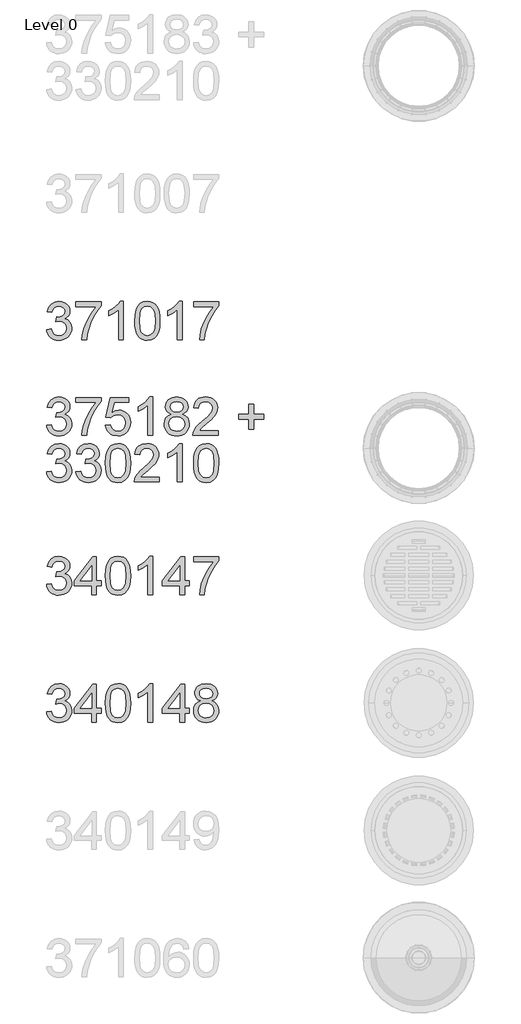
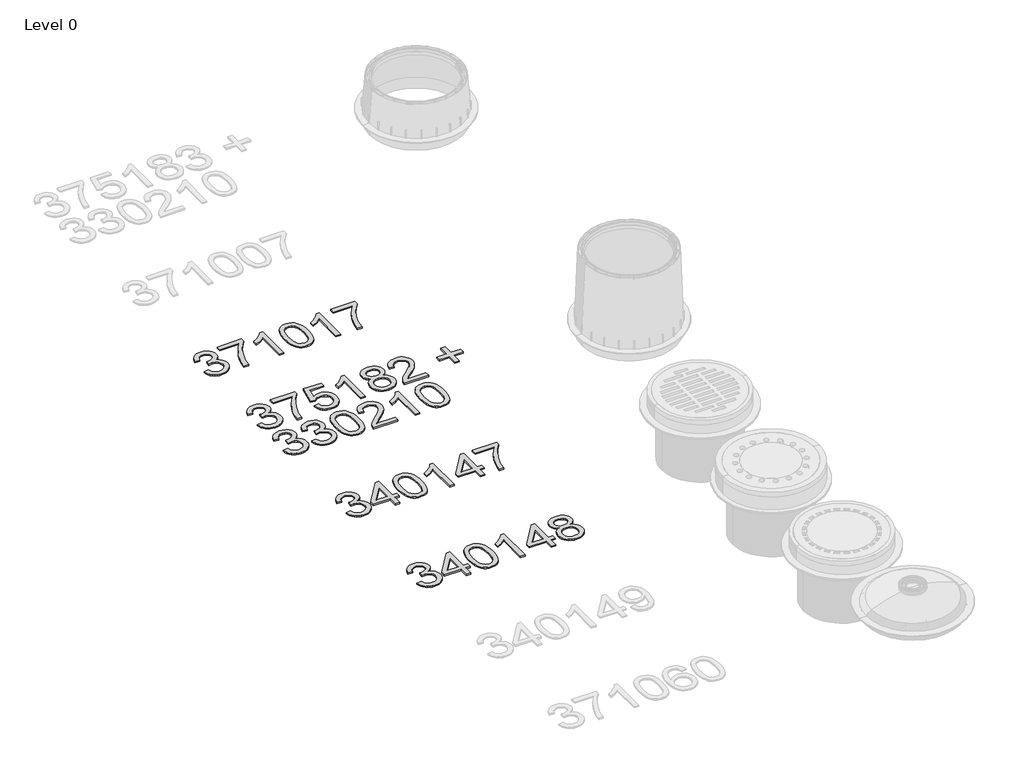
# One storey, part 12 of 25: 4 proxies.
"""IFC4 building model written with IfcOpenShell, lengths in millimetres."""

from ifc_helpers import new_model, si_unit, origin, origin_with_axes, place, context, project, spatial, polyline, outline, extrude, element, save

model = new_model("IFC4")

# Units and contexts
model_context = context("Model", 3, world=origin())
ifc_project = project(units=[si_unit("LENGTHUNIT", "METRE", prefix="MILLI")], contexts=[model_context])

# Site, building, storey
site = spatial("IfcSite", under=ifc_project)
building = spatial("IfcBuilding", under=site)
storey = spatial("IfcBuildingStorey", under=building, Name="Level 0", Elevation=0.0)

# Proxies
placement = place(None, origin())
element("IfcBuildingElementProxy", 1, Name="300mm Arial", ObjectType="300mm Arial", at=placement, inside=storey, context=model_context, shape_type="SweptSolid", body=[
    extrude(outline(polyline([(-3192.0538732, -4120.925676), (-3154.3827568, -4116.2167865), (-3145.9490621, -4139.8899929), (-3133.5974241, -4155.8744656), (-3116.7208376, -4164.979545), (-3094.7122972, -4168.0145714), (-3068.8869812, -4163.8391108), (-3048.947777, -4151.3127288), (-3036.2006659, -4132.6243235), (-3031.9516289, -4109.9627926), (-3036.1638777, -4088.4508929), (-3048.8006242, -4071.0040893), (-3067.930488, -4059.4433976), (-3091.6220885, -4055.5898337), (-3118.0360157, -4059.710112), (-3113.842161, -4022.0389957), (-3107.8088963, -4022.4804541), (-3085.2393359, -4019.7765215), (-3065.0610084, -4011.6647235), (-3050.8239752, -3997.942725), (-3046.0782975, -3978.4081911), (-3049.5179941, -3962.1386099), (-3059.8370841, -3948.9408433), (-3075.5824335, -3940.1944488), (-3095.3009084, -3937.278984), (-3115.0561716, -3940.22204), (-3131.2061912, -3949.0512079), (-3142.9968091, -3963.7664877), (-3149.6738673, -3984.3678794), (-3187.3449836, -3979.6589899), (-3176.2533415, -3945.8322404), (-3156.5164724, -3920.5771415), (-3129.513934, -3904.8501862), (-3096.6252836, -3899.6078677), (-3072.9428802, -3902.1922387), (-3051.1918572, -3909.9453518), (-3032.8529397, -3922.1774281), (-3019.4068528, -3938.198689), (-3011.1570991, -3956.6571681), (-3008.4071812, -3976.2008991), (-3011.0191433, -3994.4110579), (-3018.8550298, -4010.9289595), (-3031.8044761, -4025.0004458), (-3049.7571174, -4035.8713587), (-3026.1758815, -4045.3995024), (-3008.7014868, -4061.6230984), (-2997.8857561, -4083.6592299), (-2994.2805125, -4110.6249802), (-2996.0831343, -4129.7364498), (-3001.4909997, -4147.3396033), (-3010.5041085, -4163.4344406), (-3023.122461, -4178.0209617), (-3038.4953298, -4190.1242793), (-3055.771988, -4198.7695062), (-3074.9524356, -4203.9566423), (-3096.0366724, -4205.6856877), (-3115.0929598, -4204.2095612), (-3132.4569899, -4199.7811817), (-3148.1287629, -4192.4005492), (-3162.1082787, -4182.0676636), (-3173.8299188, -4169.3895304), (-3182.7280646, -4154.9731547), (-3188.802716, -4138.8185366), (-3192.0538732, -4120.925676)])), origin_with_axes(), (0.0, 0.0, 1.0), 10.0),
    extrude(outline(polyline([(-2961.3182858, -3941.9878736), (-2961.3182858, -3904.3167573), (-2763.5449252, -3904.3167573), (-2763.5449252, -3934.7773865), (-2791.7338831, -3970.452743), (-2819.6469294, -4015.82179), (-2844.267432, -4066.7458552), (-2862.5787583, -4119.0862661), (-2871.555079, -4158.2473044), (-2876.5582741, -4200.9767982), (-2914.2293904, -4200.9767982), (-2910.1550973, -4162.1468536), (-2899.2565932, -4115.9960573), (-2881.8281837, -4067.076949), (-2858.1641743, -4019.9420684), (-2830.5362365, -3977.3321363), (-2801.2160415, -3941.9878736), (-2961.3182858, -3941.9878736)])), origin_with_axes(), (0.0, 0.0, 1.0), 10.0),
    extrude(outline(polyline([(-2589.3160123, -4200.9767982), (-2626.9871286, -4200.9767982), (-2626.9871286, -3966.1209325), (-2662.6716821, -3991.5415783), (-2702.3293612, -4010.5610775), (-2702.3293612, -3974.9501003), (-2672.7424517, -3958.8552631), (-2647.1102737, -3939.7070052), (-2626.9043551, -3919.3447368), (-2613.5962239, -3899.6078677), (-2589.3160123, -3899.6078677), (-2589.3160123, -4200.9767982)])), origin_with_axes(), (0.0, 0.0, 1.0), 10.0),
    extrude(outline(polyline([(-2499.847111, -4052.7203541), (-2497.078799, -4004.4818275), (-2488.773863, -3966.0105679), (-2475.0150764, -3936.717964), (-2455.8852126, -3916.0154047), (-2431.246316, -3903.709752), (-2400.9604307, -3899.6078677), (-2377.7470768, -3902.0358889), (-2356.9617441, -3909.3199524), (-2339.5793198, -3921.1749497), (-2326.5746913, -3937.3157722), (-2316.752242, -3957.6044643), (-2308.9163555, -3981.9030701), (-2303.7844017, -4012.7591724), (-2302.0737504, -4052.7203541), (-2304.8144713, -4100.6829692), (-2313.0366339, -4139.0622584), (-2326.7126471, -4168.3824534), (-2345.8149197, -4189.1677861), (-2370.5089986, -4201.5562123), (-2400.9604307, -4205.6856877), (-2421.7089753, -4203.892263), (-2440.103075, -4198.5119888), (-2456.14273, -4189.5448652), (-2469.8279402, -4176.9908921), (-2482.9613275, -4154.2971715), (-2492.3423183, -4126.0208417), (-2497.9709129, -4092.1619025), (-2499.847111, -4052.7203541)]), holes=[polyline([(-2462.1759947, -4052.6467777), (-2457.7614108, -4111.9033701), (-2452.2431809, -4132.1713688), (-2444.517659, -4146.1991691), (-2424.799184, -4162.5607208), (-2400.9604307, -4168.0145714), (-2377.1216774, -4162.5423267), (-2357.4032025, -4146.1255927), (-2349.6776806, -4132.0747997), (-2344.1594507, -4111.8113996), (-2339.7448667, -4052.6467777), (-2344.0122979, -3994.7237576), (-2349.3465868, -3974.5224375), (-2356.8145913, -3960.1612441), (-2376.496278, -3942.9995491), (-2401.4018891, -3937.278984), (-2424.983125, -3942.3189674), (-2443.9290478, -3957.4389174), (-2451.9120871, -3973.0739022), (-2457.614258, -3994.1535405), (-2462.1759947, -4052.6467777)])]), origin_with_axes(), (0.0, 0.0, 1.0), 10.0),
    extrude(outline(polyline([(-2127.8448375, -4200.9767982), (-2165.5159538, -4200.9767982), (-2165.5159538, -3966.1209325), (-2201.2005073, -3991.5415783), (-2240.8581864, -4010.5610775), (-2240.8581864, -3974.9501003), (-2211.271277, -3958.8552631), (-2185.639099, -3939.7070052), (-2165.4331804, -3919.3447368), (-2152.1250492, -3899.6078677), (-2127.8448375, -3899.6078677), (-2127.8448375, -4200.9767982)])), origin_with_axes(), (0.0, 0.0, 1.0), 10.0),
    extrude(outline(polyline([(-2038.3759363, -3941.9878736), (-2038.3759363, -3904.3167573), (-1840.6025757, -3904.3167573), (-1840.6025757, -3934.7773865), (-1868.7915336, -3970.452743), (-1896.7045799, -4015.82179), (-1921.3250825, -4066.7458552), (-1939.6364088, -4119.0862661), (-1948.6127295, -4158.2473044), (-1953.6159246, -4200.9767982), (-1991.2870409, -4200.9767982), (-1987.2127478, -4162.1468536), (-1976.3142437, -4115.9960573), (-1958.8858342, -4067.076949), (-1935.2218248, -4019.9420684), (-1907.593887, -3977.3321363), (-1878.273692, -3941.9878736), (-2038.3759363, -3941.9878736)])), origin_with_axes(), (0.0, 0.0, 1.0), 10.0),
])
element("IfcBuildingElementProxy", 2, Name="300mm Arial", ObjectType="300mm Arial", at=placement, inside=storey, context=model_context, shape_type="SweptSolid", body=[
    extrude(outline(polyline([(-3192.0538732, -4870.925676), (-3154.3827568, -4866.2167865), (-3145.9490621, -4889.8899929), (-3133.5974241, -4905.8744656), (-3116.7208376, -4914.979545), (-3094.7122972, -4918.0145714), (-3068.8869812, -4913.8391108), (-3048.947777, -4901.3127288), (-3036.2006659, -4882.6243235), (-3031.9516289, -4859.9627926), (-3036.1638777, -4838.4508929), (-3048.8006242, -4821.0040893), (-3067.930488, -4809.4433976), (-3091.6220885, -4805.5898337), (-3118.0360157, -4809.710112), (-3113.842161, -4772.0389957), (-3107.8088963, -4772.4804541), (-3085.2393359, -4769.7765215), (-3065.0610084, -4761.6647235), (-3050.8239752, -4747.942725), (-3046.0782975, -4728.4081911), (-3049.5179941, -4712.1386099), (-3059.8370841, -4698.9408433), (-3075.5824335, -4690.1944488), (-3095.3009084, -4687.278984), (-3115.0561716, -4690.22204), (-3131.2061912, -4699.0512079), (-3142.9968091, -4713.7664877), (-3149.6738673, -4734.3678794), (-3187.3449836, -4729.6589899), (-3176.2533415, -4695.8322404), (-3156.5164724, -4670.5771415), (-3129.513934, -4654.8501862), (-3096.6252836, -4649.6078677), (-3072.9428802, -4652.1922387), (-3051.1918572, -4659.9453518), (-3032.8529397, -4672.1774281), (-3019.4068528, -4688.198689), (-3011.1570991, -4706.6571681), (-3008.4071812, -4726.2008991), (-3011.0191433, -4744.4110579), (-3018.8550298, -4760.9289595), (-3031.8044761, -4775.0004458), (-3049.7571174, -4785.8713587), (-3026.1758815, -4795.3995024), (-3008.7014868, -4811.6230984), (-2997.8857561, -4833.6592299), (-2994.2805125, -4860.6249802), (-2996.0831343, -4879.7364498), (-3001.4909997, -4897.3396033), (-3010.5041085, -4913.4344406), (-3023.122461, -4928.0209617), (-3038.4953298, -4940.1242793), (-3055.771988, -4948.7695062), (-3074.9524356, -4953.9566423), (-3096.0366724, -4955.6856877), (-3115.0929598, -4954.2095612), (-3132.4569899, -4949.7811817), (-3148.1287629, -4942.4005492), (-3162.1082787, -4932.0676636), (-3173.8299188, -4919.3895304), (-3182.7280646, -4904.9731547), (-3188.802716, -4888.8185366), (-3192.0538732, -4870.925676)])), origin_with_axes(), (0.0, 0.0, 1.0), 10.0),
    extrude(outline(polyline([(-2961.3182858, -4691.9878736), (-2961.3182858, -4654.3167573), (-2763.5449252, -4654.3167573), (-2763.5449252, -4684.7773865), (-2791.7338831, -4720.452743), (-2819.6469294, -4765.82179), (-2844.267432, -4816.7458552), (-2862.5787583, -4869.0862661), (-2871.555079, -4908.2473044), (-2876.5582741, -4950.9767982), (-2914.2293904, -4950.9767982), (-2910.1550973, -4912.1468536), (-2899.2565932, -4865.9960573), (-2881.8281837, -4817.076949), (-2858.1641743, -4769.9420684), (-2830.5362365, -4727.3321363), (-2801.2160415, -4691.9878736), (-2961.3182858, -4691.9878736)])), origin_with_axes(), (0.0, 0.0, 1.0), 10.0),
    extrude(outline(polyline([(-2730.5826984, -4870.925676), (-2692.9115821, -4866.2167865), (-2685.9954006, -4888.8323321), (-2673.9288711, -4905.028337), (-2656.7671761, -4914.7680128), (-2634.5654977, -4918.0145714), (-2607.5629592, -4913.4988199), (-2587.3294495, -4899.9515654), (-2574.6927029, -4878.9363065), (-2570.4804541, -4852.0165415), (-2574.4259885, -4826.669472), (-2586.2625917, -4807.2820909), (-2606.0822342, -4794.9764381), (-2633.9768865, -4790.8745539), (-2652.2514246, -4792.5116288), (-2667.0494778, -4797.4228534), (-2688.2026926, -4814.4190016), (-2725.8738089, -4809.710112), (-2692.9115821, -4654.3167573), (-2546.9360064, -4654.3167573), (-2546.9360064, -4691.9878736), (-2662.4509529, -4691.9878736), (-2678.5641843, -4774.9820517), (-2651.6536163, -4758.6480911), (-2623.4554614, -4753.2034376), (-2605.1096462, -4754.8910962), (-2588.2583515, -4759.9540722), (-2572.9015775, -4768.3923654), (-2559.0393241, -4780.205976), (-2547.5637051, -4794.6729355), (-2539.3668344, -4811.0712754), (-2534.4487119, -4829.4009958), (-2532.8093378, -4849.6620967), (-2538.7138438, -4887.333213), (-2546.0944763, -4904.1270261), (-2556.4273619, -4919.5596758), (-2572.0807408, -4935.364806), (-2590.3460818, -4946.6541847), (-2611.2233851, -4953.427812), (-2634.7126505, -4955.6856877), (-2671.7123821, -4949.8823492), (-2687.3910529, -4942.6281762), (-2701.188927, -4932.4723338), (-2712.6691445, -4919.92066), (-2721.3948456, -4905.4789924), (-2730.5826984, -4870.925676)])), origin_with_axes(), (0.0, 0.0, 1.0), 10.0),
    extrude(outline(polyline([(-2358.5804249, -4950.9767982), (-2396.2515412, -4950.9767982), (-2396.2515412, -4716.1209325), (-2431.9360947, -4741.5415783), (-2471.5937738, -4760.5610775), (-2471.5937738, -4724.9501003), (-2442.0068643, -4708.8552631), (-2416.3746863, -4689.7070052), (-2396.1687677, -4669.3447368), (-2382.8606366, -4649.6078677), (-2358.5804249, -4649.6078677), (-2358.5804249, -4950.9767982)])), origin_with_axes(), (0.0, 0.0, 1.0), 10.0),
    extrude(outline(polyline([(-2214.22353, -4784.988442), (-2234.3926604, -4775.0556281), (-2248.5469201, -4761.5911471), (-2256.9070385, -4744.8709104), (-2259.6937446, -4725.1708295), (-2258.1762313, -4709.8071577), (-2253.6236917, -4695.7218758), (-2246.0361255, -4682.9149839), (-2235.4135329, -4671.3864818), (-2222.2663501, -4661.8583382), (-2207.1050134, -4655.0525213), (-2170.7398781, -4649.6078677), (-2134.1540137, -4655.18128), (-2118.8271301, -4662.1480452), (-2105.4776122, -4671.9015166), (-2094.6618815, -4683.6553464), (-2086.9363596, -4696.6231867), (-2082.3010465, -4710.8050376), (-2080.7559421, -4726.2008991), (-2083.50586, -4745.2663835), (-2091.7556138, -4761.7015117), (-2105.5971738, -4775.0832192), (-2125.1225107, -4784.988442), (-2101.936748, -4796.9354097), (-2085.0601615, -4814.5293662), (-2074.7686627, -4836.9241826), (-2071.338163, -4863.2737305), (-2073.0396173, -4882.0633034), (-2078.14398, -4899.2893779), (-2086.6512511, -4914.9519538), (-2098.5614307, -4929.0510313), (-2113.2491193, -4940.7036935), (-2130.0889177, -4949.0270236), (-2149.0808257, -4954.0210217), (-2170.2248434, -4955.6856877), (-2191.368861, -4954.0141239), (-2210.360769, -4948.9994325), (-2227.2005674, -4940.6416134), (-2241.888256, -4928.9406667), (-2253.7984356, -4914.7427209), (-2262.3057067, -4898.8939047), (-2267.4100694, -4881.3942181), (-2269.1115237, -4862.2436609), (-2265.5430683, -4834.8732405), (-2254.8377022, -4812.3588624), (-2237.5472485, -4795.4730788), (-2214.22353, -4784.988442)]), holes=[polyline([(-2222.0226283, -4726.2744755), (-2218.6840992, -4742.7188007), (-2208.6685118, -4755.8521879), (-2192.2701719, -4764.4606266), (-2169.783385, -4767.3301062), (-2147.8208298, -4764.4790207), (-2131.6708103, -4755.9257643), (-2121.7379964, -4743.2338355), (-2118.4270584, -4727.9667327), (-2121.848361, -4712.1202158), (-2132.1122687, -4699.0144197), (-2148.4830174, -4690.2128429), (-2170.2248434, -4687.278984), (-2192.104625, -4690.1484636), (-2208.4477827, -4698.7569023), (-2218.6289169, -4711.3752547), (-2222.0226283, -4726.2744755)]), polyline([(-2231.4404073, -4860.9192858), (-2225.1496252, -4889.2829876), (-2216.440019, -4901.4506846), (-2202.8927645, -4910.5097787), (-2186.6691685, -4916.1383732), (-2169.9305378, -4918.0145714), (-2144.2891627, -4914.069037), (-2125.0489343, -4902.2324338), (-2113.0191931, -4884.3073836), (-2109.0092794, -4862.0965081), (-2113.1479518, -4839.5085536), (-2125.5639691, -4821.1880303), (-2145.2456559, -4809.0479244), (-2171.1813365, -4805.0012225), (-2196.4640267, -4808.9927421), (-2215.511117, -4820.9673011), (-2227.4580848, -4838.9383365), (-2231.4404073, -4860.9192858)])]), origin_with_axes(), (0.0, 0.0, 1.0), 10.0),
    extrude(outline(polyline([(-1845.3114652, -4913.3056819), (-1845.3114652, -4950.9767982), (-2043.0848258, -4950.9767982), (-2039.0381239, -4925.0043293), (-2029.7491035, -4904.7064402), (-2016.1558638, -4885.0155564), (-1996.4925711, -4864.4049677), (-1968.993392, -4841.3479636), (-1928.3424315, -4805.2403458), (-1903.9518552, -4778.5872952), (-1891.7565671, -4756.9558339), (-1887.6914711, -4735.9129838), (-1891.5266409, -4717.0498345), (-1903.0321503, -4701.3688645), (-1920.7180772, -4690.8014541), (-1943.0944995, -4687.278984), (-1966.592962, -4690.7186807), (-1984.849106, -4701.0377707), (-1996.6305269, -4717.4269135), (-2000.70482, -4739.076769), (-2038.3759363, -4734.3678794), (-2029.2432658, -4697.9291678), (-2020.6969072, -4683.3932305), (-2009.4971997, -4671.3129054), (-1995.9016607, -4661.8169514), (-1980.1678076, -4655.0341272), (-1942.2851591, -4649.6078677), (-1922.0953354, -4651.1161839), (-1904.1265992, -4655.6411325), (-1888.3789505, -4663.1827134), (-1874.8523894, -4673.7409266), (-1863.9883743, -4686.534023), (-1856.2283634, -4700.7802533), (-1851.5723569, -4716.4796174), (-1850.0203548, -4733.6321154), (-1851.6942178, -4751.6491361), (-1856.7158071, -4769.3534572), (-1865.6277484, -4787.3612808), (-1878.9726678, -4806.2888095), (-1900.2454441, -4828.885961), (-1932.9409565, -4857.9026534), (-1976.2774555, -4894.1390299), (-1993.2736037, -4913.3056819), (-1845.3114652, -4913.3056819)])), origin_with_axes(), (0.0, 0.0, 1.0), 10.0),
    extrude(outline(polyline([(-1605.1580988, -4903.8879028), (-1605.1580988, -4823.8367806), (-1685.2092209, -4823.8367806), (-1685.2092209, -4786.1656643), (-1605.1580988, -4786.1656643), (-1605.1580988, -4706.1145422), (-1567.4869825, -4706.1145422), (-1567.4869825, -4786.1656643), (-1487.4358603, -4786.1656643), (-1487.4358603, -4823.8367806), (-1567.4869825, -4823.8367806), (-1567.4869825, -4903.8879028), (-1605.1580988, -4903.8879028)])), origin_with_axes(), (0.0, 0.0, 1.0), 10.0),
    extrude(outline(polyline([(-3192.0538732, -5236.8501296), (-3154.3827568, -5232.14124), (-3145.9490621, -5255.8144464), (-3133.5974241, -5271.7989191), (-3116.7208376, -5280.9039985), (-3094.7122972, -5283.9390249), (-3068.8869812, -5279.7635643), (-3048.947777, -5267.2371824), (-3036.2006659, -5248.548777), (-3031.9516289, -5225.8872461), (-3036.1638777, -5204.3753464), (-3048.8006242, -5186.9285428), (-3067.930488, -5175.3678511), (-3091.6220885, -5171.5142872), (-3118.0360157, -5175.6345656), (-3113.842161, -5137.9634493), (-3107.8088963, -5138.4049077), (-3085.2393359, -5135.700975), (-3065.0610084, -5127.589177), (-3050.8239752, -5113.8671786), (-3046.0782975, -5094.3326446), (-3049.5179941, -5078.0630634), (-3059.8370841, -5064.8652968), (-3075.5824335, -5056.1189024), (-3095.3009084, -5053.2034376), (-3115.0561716, -5056.1464935), (-3131.2061912, -5064.9756614), (-3142.9968091, -5079.6909412), (-3149.6738673, -5100.292333), (-3187.3449836, -5095.5834434), (-3176.2533415, -5061.756694), (-3156.5164724, -5036.501595), (-3129.513934, -5020.7746397), (-3096.6252836, -5015.5323213), (-3072.9428802, -5018.1166923), (-3051.1918572, -5025.8698053), (-3032.8529397, -5038.1018817), (-3019.4068528, -5054.1231426), (-3011.1570991, -5072.5816217), (-3008.4071812, -5092.1253527), (-3011.0191433, -5110.3355114), (-3018.8550298, -5126.853413), (-3031.8044761, -5140.9248993), (-3049.7571174, -5151.7958123), (-3026.1758815, -5161.323956), (-3008.7014868, -5177.5475519), (-2997.8857561, -5199.5836835), (-2994.2805125, -5226.5494337), (-2996.0831343, -5245.6609033), (-3001.4909997, -5263.2640568), (-3010.5041085, -5279.3588941), (-3023.122461, -5293.9454152), (-3038.4953298, -5306.0487329), (-3055.771988, -5314.6939597), (-3074.9524356, -5319.8810959), (-3096.0366724, -5321.6101413), (-3115.0929598, -5320.1340147), (-3132.4569899, -5315.7056352), (-3148.1287629, -5308.3250027), (-3162.1082787, -5297.9921172), (-3173.8299188, -5285.3139839), (-3182.7280646, -5270.8976082), (-3188.802716, -5254.7429901), (-3192.0538732, -5236.8501296)])), origin_with_axes(), (0.0, 0.0, 1.0), 10.0),
    extrude(outline(polyline([(-2961.3182858, -5236.8501296), (-2923.6471695, -5232.14124), (-2915.2134747, -5255.8144464), (-2902.8618367, -5271.7989191), (-2885.9852502, -5280.9039985), (-2863.9767099, -5283.9390249), (-2838.1513938, -5279.7635643), (-2818.2121897, -5267.2371824), (-2805.4650785, -5248.548777), (-2801.2160415, -5225.8872461), (-2805.4282903, -5204.3753464), (-2818.0650369, -5186.9285428), (-2837.1949006, -5175.3678511), (-2860.8865011, -5171.5142872), (-2887.3004284, -5175.6345656), (-2883.1065736, -5137.9634493), (-2877.0733089, -5138.4049077), (-2854.5037485, -5135.700975), (-2834.325421, -5127.589177), (-2820.0883878, -5113.8671786), (-2815.3427101, -5094.3326446), (-2818.7824067, -5078.0630634), (-2829.1014967, -5064.8652968), (-2844.8468461, -5056.1189024), (-2864.565321, -5053.2034376), (-2884.3205842, -5056.1464935), (-2900.4706038, -5064.9756614), (-2912.2612217, -5079.6909412), (-2918.9382799, -5100.292333), (-2956.6093962, -5095.5834434), (-2945.5177541, -5061.756694), (-2925.780885, -5036.501595), (-2898.7783466, -5020.7746397), (-2865.8896962, -5015.5323213), (-2842.2072928, -5018.1166923), (-2820.4562698, -5025.8698053), (-2802.1173524, -5038.1018817), (-2788.6712654, -5054.1231426), (-2780.4215117, -5072.5816217), (-2777.6715938, -5092.1253527), (-2780.283556, -5110.3355114), (-2788.1194425, -5126.853413), (-2801.0688887, -5140.9248993), (-2819.02153, -5151.7958123), (-2795.4402942, -5161.323956), (-2777.9658994, -5177.5475519), (-2767.1501687, -5199.5836835), (-2763.5449252, -5226.5494337), (-2765.3475469, -5245.6609033), (-2770.7554123, -5263.2640568), (-2779.7685212, -5279.3588941), (-2792.3868736, -5293.9454152), (-2807.7597425, -5306.0487329), (-2825.0364007, -5314.6939597), (-2844.2168482, -5319.8810959), (-2865.301085, -5321.6101413), (-2884.3573724, -5320.1340147), (-2901.7214026, -5315.7056352), (-2917.3931756, -5308.3250027), (-2931.3726914, -5297.9921172), (-2943.0943314, -5285.3139839), (-2951.9924772, -5270.8976082), (-2958.0671286, -5254.7429901), (-2961.3182858, -5236.8501296)])), origin_with_axes(), (0.0, 0.0, 1.0), 10.0),
    extrude(outline(polyline([(-2730.5826984, -5168.6448077), (-2727.8143864, -5120.406281), (-2719.5094504, -5081.9350214), (-2705.7506637, -5052.6424175), (-2686.6208, -5031.9398582), (-2661.9819034, -5019.6342055), (-2631.6960181, -5015.5323213), (-2608.4826642, -5017.9603424), (-2587.6973315, -5025.2444059), (-2570.3149072, -5037.0994032), (-2557.3102787, -5053.2402258), (-2547.4878294, -5073.5289178), (-2539.6519429, -5097.8275236), (-2534.5199891, -5128.6836259), (-2532.8093378, -5168.6448077), (-2535.5500587, -5216.6074228), (-2543.7722213, -5254.9867119), (-2557.4482344, -5284.3069069), (-2576.550507, -5305.0922397), (-2601.244586, -5317.4806659), (-2631.6960181, -5321.6101413), (-2652.4445626, -5319.8167165), (-2670.8386624, -5314.4364423), (-2686.8783174, -5305.4693187), (-2700.5635276, -5292.9153456), (-2713.6969148, -5270.2216251), (-2723.0779057, -5241.9452952), (-2728.7065002, -5208.0863561), (-2730.5826984, -5168.6448077)]), holes=[polyline([(-2692.9115821, -5168.5712313), (-2688.4969982, -5227.8278236), (-2682.9787682, -5248.0958223), (-2675.2532463, -5262.1236226), (-2655.5347714, -5278.4851744), (-2631.6960181, -5283.9390249), (-2607.8572648, -5278.4667803), (-2588.1387899, -5262.0500462), (-2580.413268, -5247.9992533), (-2574.895038, -5227.7358531), (-2570.4804541, -5168.5712313), (-2574.7478852, -5110.6482111), (-2580.0821742, -5090.4468911), (-2587.5501787, -5076.0856977), (-2607.2318654, -5058.9240026), (-2632.1374765, -5053.2034376), (-2655.7187124, -5058.2434209), (-2674.6646351, -5073.3633709), (-2682.6476744, -5088.9983557), (-2688.3498454, -5110.077994), (-2692.9115821, -5168.5712313)])]), origin_with_axes(), (0.0, 0.0, 1.0), 10.0),
    extrude(outline(polyline([(-2306.78264, -5279.2301354), (-2306.78264, -5316.9012517), (-2504.5560006, -5316.9012517), (-2500.5092986, -5290.9287829), (-2491.2202782, -5270.6308938), (-2477.6270385, -5250.94001), (-2457.9637459, -5230.3294212), (-2430.4645667, -5207.2724172), (-2389.8136063, -5171.1647993), (-2365.42303, -5144.5117488), (-2353.2277419, -5122.8802875), (-2349.1626458, -5101.8374373), (-2352.9978156, -5082.974288), (-2364.503325, -5067.293318), (-2382.1892519, -5056.7259077), (-2404.5656743, -5053.2034376), (-2428.0641367, -5056.6431342), (-2446.3202807, -5066.9622242), (-2458.1017016, -5083.3513671), (-2462.1759947, -5105.0012225), (-2499.847111, -5100.292333), (-2490.7144405, -5063.8536213), (-2482.1680819, -5049.317684), (-2470.9683744, -5037.237359), (-2457.3728354, -5027.741405), (-2441.6389823, -5020.9585807), (-2403.7563339, -5015.5323213), (-2383.5665101, -5017.0406374), (-2365.5977739, -5021.565586), (-2349.8501253, -5029.1071669), (-2336.3235642, -5039.6653801), (-2325.459549, -5052.4584765), (-2317.6995382, -5066.7047068), (-2313.0435317, -5082.4040709), (-2311.4915295, -5099.556569), (-2313.1653926, -5117.5735897), (-2318.1869818, -5135.2779107), (-2327.0989231, -5153.2857344), (-2340.4438425, -5172.213263), (-2361.7166189, -5194.8104146), (-2394.4121312, -5223.8271069), (-2437.7486302, -5260.0634835), (-2454.7447784, -5279.2301354), (-2306.78264, -5279.2301354)])), origin_with_axes(), (0.0, 0.0, 1.0), 10.0),
    extrude(outline(polyline([(-2127.8448375, -5316.9012517), (-2165.5159538, -5316.9012517), (-2165.5159538, -5082.045386), (-2201.2005073, -5107.4660319), (-2240.8581864, -5126.485531), (-2240.8581864, -5090.8745539), (-2211.271277, -5074.7797166), (-2185.639099, -5055.6314587), (-2165.4331804, -5035.2691903), (-2152.1250492, -5015.5323213), (-2127.8448375, -5015.5323213), (-2127.8448375, -5316.9012517)])), origin_with_axes(), (0.0, 0.0, 1.0), 10.0),
    extrude(outline(polyline([(-2038.3759363, -5168.6448077), (-2035.6076243, -5120.406281), (-2027.3026882, -5081.9350214), (-2013.5439016, -5052.6424175), (-1994.4140379, -5031.9398582), (-1969.7751412, -5019.6342055), (-1939.489256, -5015.5323213), (-1916.2759021, -5017.9603424), (-1895.4905694, -5025.2444059), (-1878.1081451, -5037.0994032), (-1865.1035166, -5053.2402258), (-1855.2810673, -5073.5289178), (-1847.4451808, -5097.8275236), (-1842.313227, -5128.6836259), (-1840.6025757, -5168.6448077), (-1843.3432965, -5216.6074228), (-1851.5654591, -5254.9867119), (-1865.2414723, -5284.3069069), (-1884.3437449, -5305.0922397), (-1909.0378238, -5317.4806659), (-1939.489256, -5321.6101413), (-1960.2378005, -5319.8167165), (-1978.6319003, -5314.4364423), (-1994.6715553, -5305.4693187), (-2008.3567655, -5292.9153456), (-2021.4901527, -5270.2216251), (-2030.8711436, -5241.9452952), (-2036.4997381, -5208.0863561), (-2038.3759363, -5168.6448077)]), holes=[polyline([(-2000.70482, -5168.5712313), (-1996.290236, -5227.8278236), (-1990.7720061, -5248.0958223), (-1983.0464842, -5262.1236226), (-1963.3280093, -5278.4851744), (-1939.489256, -5283.9390249), (-1915.6505027, -5278.4667803), (-1895.9320277, -5262.0500462), (-1888.2065058, -5247.9992533), (-1882.6882759, -5227.7358531), (-1878.273692, -5168.5712313), (-1882.5411231, -5110.6482111), (-1887.8754121, -5090.4468911), (-1895.3434166, -5076.0856977), (-1915.0251033, -5058.9240026), (-1939.9307144, -5053.2034376), (-1963.5119503, -5058.2434209), (-1982.457873, -5073.3633709), (-1990.4409123, -5088.9983557), (-1996.1430832, -5110.077994), (-2000.70482, -5168.5712313)])]), origin_with_axes(), (0.0, 0.0, 1.0), 10.0),
])
element("IfcBuildingElementProxy", 3, Name="300mm Arial", ObjectType="300mm Arial", at=placement, inside=storey, context=model_context, shape_type="SweptSolid", body=[
    extrude(outline(polyline([(-3192.0538732, -6120.925676), (-3154.3827568, -6116.2167865), (-3145.9490621, -6139.8899929), (-3133.5974241, -6155.8744656), (-3116.7208376, -6164.979545), (-3094.7122972, -6168.0145714), (-3068.8869812, -6163.8391108), (-3048.947777, -6151.3127288), (-3036.2006659, -6132.6243235), (-3031.9516289, -6109.9627926), (-3036.1638777, -6088.4508929), (-3048.8006242, -6071.0040893), (-3067.930488, -6059.4433976), (-3091.6220885, -6055.5898337), (-3118.0360157, -6059.710112), (-3113.842161, -6022.0389957), (-3107.8088963, -6022.4804541), (-3085.2393359, -6019.7765215), (-3065.0610084, -6011.6647235), (-3050.8239752, -5997.942725), (-3046.0782975, -5978.4081911), (-3049.5179941, -5962.1386099), (-3059.8370841, -5948.9408433), (-3075.5824335, -5940.1944488), (-3095.3009084, -5937.278984), (-3115.0561716, -5940.22204), (-3131.2061912, -5949.0512079), (-3142.9968091, -5963.7664877), (-3149.6738673, -5984.3678794), (-3187.3449836, -5979.6589899), (-3176.2533415, -5945.8322404), (-3156.5164724, -5920.5771415), (-3129.513934, -5904.8501862), (-3096.6252836, -5899.6078677), (-3072.9428802, -5902.1922387), (-3051.1918572, -5909.9453518), (-3032.8529397, -5922.1774281), (-3019.4068528, -5938.198689), (-3011.1570991, -5956.6571681), (-3008.4071812, -5976.2008991), (-3011.0191433, -5994.4110579), (-3018.8550298, -6010.9289595), (-3031.8044761, -6025.0004458), (-3049.7571174, -6035.8713587), (-3026.1758815, -6045.3995024), (-3008.7014868, -6061.6230984), (-2997.8857561, -6083.6592299), (-2994.2805125, -6110.6249802), (-2996.0831343, -6129.7364498), (-3001.4909997, -6147.3396033), (-3010.5041085, -6163.4344406), (-3023.122461, -6178.0209617), (-3038.4953298, -6190.1242793), (-3055.771988, -6198.7695062), (-3074.9524356, -6203.9566423), (-3096.0366724, -6205.6856877), (-3115.0929598, -6204.2095612), (-3132.4569899, -6199.7811817), (-3148.1287629, -6192.4005492), (-3162.1082787, -6182.0676636), (-3173.8299188, -6169.3895304), (-3182.7280646, -6154.9731547), (-3188.802716, -6138.8185366), (-3192.0538732, -6120.925676)])), origin_with_axes(), (0.0, 0.0, 1.0), 10.0),
    extrude(outline(polyline([(-2838.8871578, -6200.9767982), (-2838.8871578, -6130.3434551), (-2975.4449544, -6130.3434551), (-2975.4449544, -6092.6723388), (-2829.4693787, -5904.3167573), (-2801.2160415, -5904.3167573), (-2801.2160415, -6092.6723388), (-2763.5449252, -6092.6723388), (-2763.5449252, -6130.3434551), (-2801.2160415, -6130.3434551), (-2801.2160415, -6200.9767982), (-2838.8871578, -6200.9767982)]), holes=[polyline([(-2838.8871578, -6092.6723388), (-2838.8871578, -5976.2744755), (-2929.091823, -6092.6723388), (-2838.8871578, -6092.6723388)])]), origin_with_axes(), (0.0, 0.0, 1.0), 10.0),
    extrude(outline(polyline([(-2730.5826984, -6052.7203541), (-2727.8143864, -6004.4818275), (-2719.5094504, -5966.0105679), (-2705.7506637, -5936.717964), (-2686.6208, -5916.0154047), (-2661.9819034, -5903.709752), (-2631.6960181, -5899.6078677), (-2608.4826642, -5902.0358889), (-2587.6973315, -5909.3199524), (-2570.3149072, -5921.1749497), (-2557.3102787, -5937.3157722), (-2547.4878294, -5957.6044643), (-2539.6519429, -5981.9030701), (-2534.5199891, -6012.7591724), (-2532.8093378, -6052.7203541), (-2535.5500587, -6100.6829692), (-2543.7722213, -6139.0622584), (-2557.4482344, -6168.3824534), (-2576.550507, -6189.1677861), (-2601.244586, -6201.5562123), (-2631.6960181, -6205.6856877), (-2652.4445626, -6203.892263), (-2670.8386624, -6198.5119888), (-2686.8783174, -6189.5448652), (-2700.5635276, -6176.9908921), (-2713.6969148, -6154.2971715), (-2723.0779057, -6126.0208417), (-2728.7065002, -6092.1619025), (-2730.5826984, -6052.7203541)]), holes=[polyline([(-2692.9115821, -6052.6467777), (-2688.4969982, -6111.9033701), (-2682.9787682, -6132.1713688), (-2675.2532463, -6146.1991691), (-2655.5347714, -6162.5607208), (-2631.6960181, -6168.0145714), (-2607.8572648, -6162.5423267), (-2588.1387899, -6146.1255927), (-2580.413268, -6132.0747997), (-2574.895038, -6111.8113996), (-2570.4804541, -6052.6467777), (-2574.7478852, -5994.7237576), (-2580.0821742, -5974.5224375), (-2587.5501787, -5960.1612441), (-2607.2318654, -5942.9995491), (-2632.1374765, -5937.278984), (-2655.7187124, -5942.3189674), (-2674.6646351, -5957.4389174), (-2682.6476744, -5973.0739022), (-2688.3498454, -5994.1535405), (-2692.9115821, -6052.6467777)])]), origin_with_axes(), (0.0, 0.0, 1.0), 10.0),
    extrude(outline(polyline([(-2358.5804249, -6200.9767982), (-2396.2515412, -6200.9767982), (-2396.2515412, -5966.1209325), (-2431.9360947, -5991.5415783), (-2471.5937738, -6010.5610775), (-2471.5937738, -5974.9501003), (-2442.0068643, -5958.8552631), (-2416.3746863, -5939.7070052), (-2396.1687677, -5919.3447368), (-2382.8606366, -5899.6078677), (-2358.5804249, -5899.6078677), (-2358.5804249, -6200.9767982)])), origin_with_axes(), (0.0, 0.0, 1.0), 10.0),
    extrude(outline(polyline([(-2146.6803957, -6200.9767982), (-2146.6803957, -6130.3434551), (-2283.2381923, -6130.3434551), (-2283.2381923, -6092.6723388), (-2137.2626166, -5904.3167573), (-2109.0092794, -5904.3167573), (-2109.0092794, -6092.6723388), (-2071.338163, -6092.6723388), (-2071.338163, -6130.3434551), (-2109.0092794, -6130.3434551), (-2109.0092794, -6200.9767982), (-2146.6803957, -6200.9767982)]), holes=[polyline([(-2146.6803957, -6092.6723388), (-2146.6803957, -5976.2744755), (-2236.8850609, -6092.6723388), (-2146.6803957, -6092.6723388)])]), origin_with_axes(), (0.0, 0.0, 1.0), 10.0),
    extrude(outline(polyline([(-2038.3759363, -5941.9878736), (-2038.3759363, -5904.3167573), (-1840.6025757, -5904.3167573), (-1840.6025757, -5934.7773865), (-1868.7915336, -5970.452743), (-1896.7045799, -6015.82179), (-1921.3250825, -6066.7458552), (-1939.6364088, -6119.0862661), (-1948.6127295, -6158.2473044), (-1953.6159246, -6200.9767982), (-1991.2870409, -6200.9767982), (-1987.2127478, -6162.1468536), (-1976.3142437, -6115.9960573), (-1958.8858342, -6067.076949), (-1935.2218248, -6019.9420684), (-1907.593887, -5977.3321363), (-1878.273692, -5941.9878736), (-2038.3759363, -5941.9878736)])), origin_with_axes(), (0.0, 0.0, 1.0), 10.0),
])
element("IfcBuildingElementProxy", 4, Name="300mm Arial", ObjectType="300mm Arial", at=placement, inside=storey, context=model_context, shape_type="SweptSolid", body=[
    extrude(outline(polyline([(-3192.0538732, -7120.925676), (-3154.3827568, -7116.2167865), (-3145.9490621, -7139.8899929), (-3133.5974241, -7155.8744656), (-3116.7208376, -7164.979545), (-3094.7122972, -7168.0145714), (-3068.8869812, -7163.8391108), (-3048.947777, -7151.3127288), (-3036.2006659, -7132.6243235), (-3031.9516289, -7109.9627926), (-3036.1638777, -7088.4508929), (-3048.8006242, -7071.0040893), (-3067.930488, -7059.4433976), (-3091.6220885, -7055.5898337), (-3118.0360157, -7059.710112), (-3113.842161, -7022.0389957), (-3107.8088963, -7022.4804541), (-3085.2393359, -7019.7765215), (-3065.0610084, -7011.6647235), (-3050.8239752, -6997.942725), (-3046.0782975, -6978.4081911), (-3049.5179941, -6962.1386099), (-3059.8370841, -6948.9408433), (-3075.5824335, -6940.1944488), (-3095.3009084, -6937.278984), (-3115.0561716, -6940.22204), (-3131.2061912, -6949.0512079), (-3142.9968091, -6963.7664877), (-3149.6738673, -6984.3678794), (-3187.3449836, -6979.6589899), (-3176.2533415, -6945.8322404), (-3156.5164724, -6920.5771415), (-3129.513934, -6904.8501862), (-3096.6252836, -6899.6078677), (-3072.9428802, -6902.1922387), (-3051.1918572, -6909.9453518), (-3032.8529397, -6922.1774281), (-3019.4068528, -6938.198689), (-3011.1570991, -6956.6571681), (-3008.4071812, -6976.2008991), (-3011.0191433, -6994.4110579), (-3018.8550298, -7010.9289595), (-3031.8044761, -7025.0004458), (-3049.7571174, -7035.8713587), (-3026.1758815, -7045.3995024), (-3008.7014868, -7061.6230984), (-2997.8857561, -7083.6592299), (-2994.2805125, -7110.6249802), (-2996.0831343, -7129.7364498), (-3001.4909997, -7147.3396033), (-3010.5041085, -7163.4344406), (-3023.122461, -7178.0209617), (-3038.4953298, -7190.1242793), (-3055.771988, -7198.7695062), (-3074.9524356, -7203.9566423), (-3096.0366724, -7205.6856877), (-3115.0929598, -7204.2095612), (-3132.4569899, -7199.7811817), (-3148.1287629, -7192.4005492), (-3162.1082787, -7182.0676636), (-3173.8299188, -7169.3895304), (-3182.7280646, -7154.9731547), (-3188.802716, -7138.8185366), (-3192.0538732, -7120.925676)])), origin_with_axes(), (0.0, 0.0, 1.0), 10.0),
    extrude(outline(polyline([(-2838.8871578, -7200.9767982), (-2838.8871578, -7130.3434551), (-2975.4449544, -7130.3434551), (-2975.4449544, -7092.6723388), (-2829.4693787, -6904.3167573), (-2801.2160415, -6904.3167573), (-2801.2160415, -7092.6723388), (-2763.5449252, -7092.6723388), (-2763.5449252, -7130.3434551), (-2801.2160415, -7130.3434551), (-2801.2160415, -7200.9767982), (-2838.8871578, -7200.9767982)]), holes=[polyline([(-2838.8871578, -7092.6723388), (-2838.8871578, -6976.2744755), (-2929.091823, -7092.6723388), (-2838.8871578, -7092.6723388)])]), origin_with_axes(), (0.0, 0.0, 1.0), 10.0),
    extrude(outline(polyline([(-2730.5826984, -7052.7203541), (-2727.8143864, -7004.4818275), (-2719.5094504, -6966.0105679), (-2705.7506637, -6936.717964), (-2686.6208, -6916.0154047), (-2661.9819034, -6903.709752), (-2631.6960181, -6899.6078677), (-2608.4826642, -6902.0358889), (-2587.6973315, -6909.3199524), (-2570.3149072, -6921.1749497), (-2557.3102787, -6937.3157722), (-2547.4878294, -6957.6044643), (-2539.6519429, -6981.9030701), (-2534.5199891, -7012.7591724), (-2532.8093378, -7052.7203541), (-2535.5500587, -7100.6829692), (-2543.7722213, -7139.0622584), (-2557.4482344, -7168.3824534), (-2576.550507, -7189.1677861), (-2601.244586, -7201.5562123), (-2631.6960181, -7205.6856877), (-2652.4445626, -7203.892263), (-2670.8386624, -7198.5119888), (-2686.8783174, -7189.5448652), (-2700.5635276, -7176.9908921), (-2713.6969148, -7154.2971715), (-2723.0779057, -7126.0208417), (-2728.7065002, -7092.1619025), (-2730.5826984, -7052.7203541)]), holes=[polyline([(-2692.9115821, -7052.6467777), (-2688.4969982, -7111.9033701), (-2682.9787682, -7132.1713688), (-2675.2532463, -7146.1991691), (-2655.5347714, -7162.5607208), (-2631.6960181, -7168.0145714), (-2607.8572648, -7162.5423267), (-2588.1387899, -7146.1255927), (-2580.413268, -7132.0747997), (-2574.895038, -7111.8113996), (-2570.4804541, -7052.6467777), (-2574.7478852, -6994.7237576), (-2580.0821742, -6974.5224375), (-2587.5501787, -6960.1612441), (-2607.2318654, -6942.9995491), (-2632.1374765, -6937.278984), (-2655.7187124, -6942.3189674), (-2674.6646351, -6957.4389174), (-2682.6476744, -6973.0739022), (-2688.3498454, -6994.1535405), (-2692.9115821, -7052.6467777)])]), origin_with_axes(), (0.0, 0.0, 1.0), 10.0),
    extrude(outline(polyline([(-2358.5804249, -7200.9767982), (-2396.2515412, -7200.9767982), (-2396.2515412, -6966.1209325), (-2431.9360947, -6991.5415783), (-2471.5937738, -7010.5610775), (-2471.5937738, -6974.9501003), (-2442.0068643, -6958.8552631), (-2416.3746863, -6939.7070052), (-2396.1687677, -6919.3447368), (-2382.8606366, -6899.6078677), (-2358.5804249, -6899.6078677), (-2358.5804249, -7200.9767982)])), origin_with_axes(), (0.0, 0.0, 1.0), 10.0),
    extrude(outline(polyline([(-2146.6803957, -7200.9767982), (-2146.6803957, -7130.3434551), (-2283.2381923, -7130.3434551), (-2283.2381923, -7092.6723388), (-2137.2626166, -6904.3167573), (-2109.0092794, -6904.3167573), (-2109.0092794, -7092.6723388), (-2071.338163, -7092.6723388), (-2071.338163, -7130.3434551), (-2109.0092794, -7130.3434551), (-2109.0092794, -7200.9767982), (-2146.6803957, -7200.9767982)]), holes=[polyline([(-2146.6803957, -7092.6723388), (-2146.6803957, -6976.2744755), (-2236.8850609, -7092.6723388), (-2146.6803957, -7092.6723388)])]), origin_with_axes(), (0.0, 0.0, 1.0), 10.0),
    extrude(outline(polyline([(-1983.4879426, -7034.988442), (-2003.657073, -7025.0556281), (-2017.8113328, -7011.5911471), (-2026.1714511, -6994.8709104), (-2028.9581572, -6975.1708295), (-2027.440644, -6959.8071577), (-2022.8881043, -6945.7218758), (-2015.3005381, -6932.9149839), (-2004.6779455, -6921.3864818), (-1991.5307627, -6911.8583382), (-1976.369426, -6905.0525213), (-1940.0042908, -6899.6078677), (-1903.4184264, -6905.18128), (-1888.0915427, -6912.1480452), (-1874.7420248, -6921.9015166), (-1863.9262942, -6933.6553464), (-1856.2007723, -6946.6231867), (-1851.5654591, -6960.8050376), (-1850.0203548, -6976.2008991), (-1852.7702727, -6995.2663835), (-1861.0200264, -7011.7015117), (-1874.8615865, -7025.0832192), (-1894.3869234, -7034.988442), (-1871.2011606, -7046.9354097), (-1854.3245741, -7064.5293662), (-1844.0330753, -7086.9241826), (-1840.6025757, -7113.2737305), (-1842.3040299, -7132.0633034), (-1847.4083926, -7149.2893779), (-1855.9156637, -7164.9519538), (-1867.8258433, -7179.0510313), (-1882.513532, -7190.7036935), (-1899.3533303, -7199.0270236), (-1918.3452383, -7204.0210217), (-1939.489256, -7205.6856877), (-1960.6332737, -7204.0141239), (-1979.6251817, -7198.9994325), (-1996.46498, -7190.6416134), (-2011.1526686, -7178.9406667), (-2023.0628482, -7164.7427209), (-2031.5701194, -7148.8939047), (-2036.6744821, -7131.3942181), (-2038.3759363, -7112.2436609), (-2034.8074809, -7084.8732405), (-2024.1021149, -7062.3588624), (-2006.8116611, -7045.4730788), (-1983.4879426, -7034.988442)]), holes=[polyline([(-1991.2870409, -6976.2744755), (-1987.9485118, -6992.7188007), (-1977.9329245, -7005.8521879), (-1961.5345845, -7014.4606266), (-1939.0477976, -7017.3301062), (-1917.0852425, -7014.4790207), (-1900.9352229, -7005.9257643), (-1891.002409, -6993.2338355), (-1887.6914711, -6977.9667327), (-1891.1127736, -6962.1202158), (-1901.3766813, -6949.0144197), (-1917.7474301, -6940.2128429), (-1939.489256, -6937.278984), (-1961.3690376, -6940.1484636), (-1977.7121953, -6948.7569023), (-1987.8933295, -6961.3752547), (-1991.2870409, -6976.2744755)]), polyline([(-2000.70482, -7110.9192858), (-1994.4140379, -7139.2829876), (-1985.7044316, -7151.4506846), (-1972.1571771, -7160.5097787), (-1955.9335812, -7166.1383732), (-1939.1949504, -7168.0145714), (-1913.5535753, -7164.069037), (-1894.313347, -7152.2324338), (-1882.2836057, -7134.3073836), (-1878.273692, -7112.0965081), (-1882.4123644, -7089.5085536), (-1894.8283818, -7071.1880303), (-1914.5100685, -7059.0479244), (-1940.4457492, -7055.0012225), (-1965.7284393, -7058.9927421), (-1984.7755296, -7070.9673011), (-1996.7224974, -7088.9383365), (-2000.70482, -7110.9192858)])]), origin_with_axes(), (0.0, 0.0, 1.0), 10.0),
])

save(model, "model.ifc")
